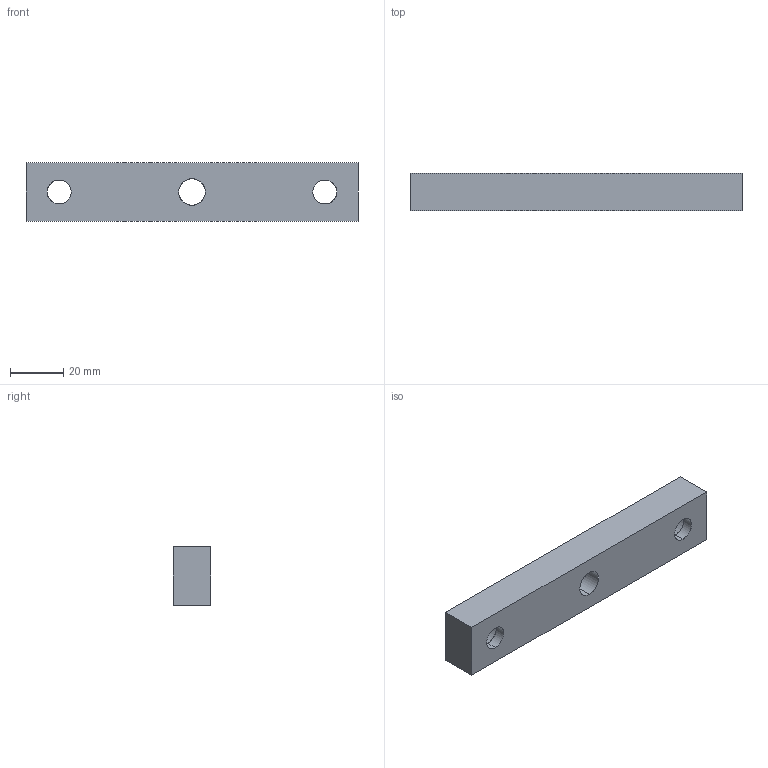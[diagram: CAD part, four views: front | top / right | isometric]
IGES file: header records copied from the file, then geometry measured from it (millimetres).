
Start section: START RECORD GO HERE.
Global section: file name: 761-014125.igs; native system: DASSAULT SYSTEMES CATIA V5 R20 - www.3ds.com; preprocessor: CATIA Version 5 Release 20 ; author: Utente; organization: NB04-ASUS; date: 20200411.201243; units: millimetre
Bounding box: 125 x 14 x 22 mm (x, y, z)
Surface area: 10907.2 mm2 (no closed solid volume)
Topology: 0 solids, 0 shells, 21 faces, 96 edges, 96 vertices
Faces by surface type: revolution 12, extrusion 9
